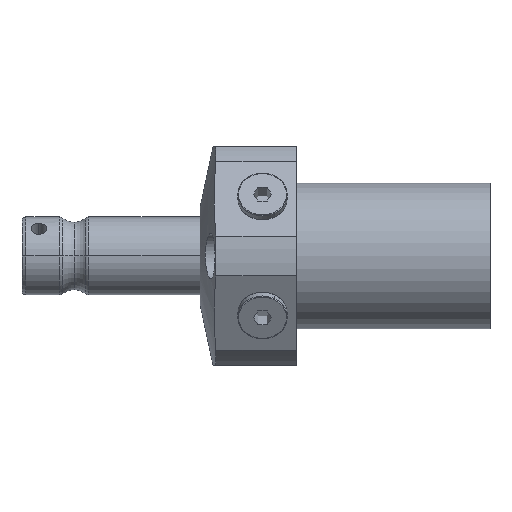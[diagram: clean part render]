
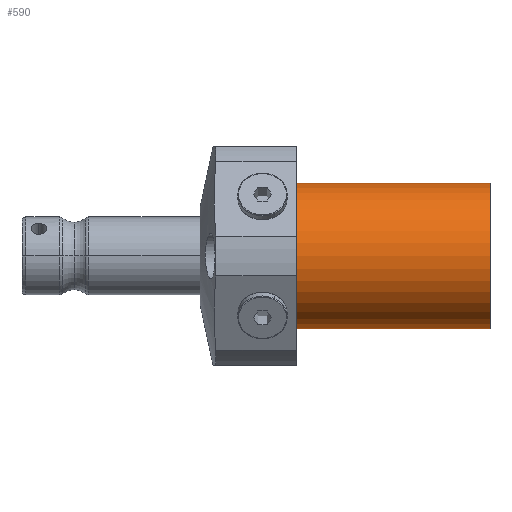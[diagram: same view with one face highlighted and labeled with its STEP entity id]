
A CAD part, left-side view. The second image highlights one B-rep face of the part: STEP entity #590.
In plain terms, the highlighted cylindrical face has radius 28 mm (diameter 56 mm), a partial arc.
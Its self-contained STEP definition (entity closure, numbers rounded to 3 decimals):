
#2 = LINE ( 'NONE', #1716, #852 ) ;
#301 = AXIS2_PLACEMENT_3D ( 'NONE', #1301, #3183, #2565 ) ;
#590 = ADVANCED_FACE ( 'NONE', ( #1028 ), #930, .T. ) ;
#852 = VECTOR ( 'NONE', #2030, 1000. ) ;
#907 = DIRECTION ( 'NONE',  ( 0., -1., 0. ) ) ;
#908 = CARTESIAN_POINT ( 'NONE',  ( 0., 0., 0. ) ) ;
#930 = CYLINDRICAL_SURFACE ( 'NONE', #301, 28. ) ;
#941 = ORIENTED_EDGE ( 'NONE', *, *, #3831, .F. ) ;
#977 = CARTESIAN_POINT ( 'NONE',  ( 0., 0., 28. ) ) ;
#984 = EDGE_CURVE ( 'NONE', #2589, #1558, #2366, .T. ) ;
#1028 = FACE_OUTER_BOUND ( 'NONE', #2873, .T. ) ;
#1194 = ORIENTED_EDGE ( 'NONE', *, *, #984, .F. ) ;
#1221 = DIRECTION ( 'NONE',  ( 0., 0., -1. ) ) ;
#1301 = CARTESIAN_POINT ( 'NONE',  ( 0., 0., 0. ) ) ;
#1524 = VERTEX_POINT ( 'NONE', #1752 ) ;
#1558 = VERTEX_POINT ( 'NONE', #2124 ) ;
#1716 = CARTESIAN_POINT ( 'NONE',  ( 0., 0., 28. ) ) ;
#1752 = CARTESIAN_POINT ( 'NONE',  ( 0., 74.5, 28. ) ) ;
#1797 = EDGE_CURVE ( 'NONE', #3162, #1558, #1819, .T. ) ;
#1819 = LINE ( 'NONE', #2785, #3392 ) ;
#1894 = DIRECTION ( 'NONE',  ( 0., -1., 0. ) ) ;
#2030 = DIRECTION ( 'NONE',  ( 0., -1., 0. ) ) ;
#2124 = CARTESIAN_POINT ( 'NONE',  ( 0., 0., -28. ) ) ;
#2349 = DIRECTION ( 'NONE',  ( 0., 0., -1. ) ) ;
#2366 = CIRCLE ( 'NONE', #3393, 28. ) ;
#2565 = DIRECTION ( 'NONE',  ( 0., 0., -1. ) ) ;
#2589 = VERTEX_POINT ( 'NONE', #977 ) ;
#2785 = CARTESIAN_POINT ( 'NONE',  ( 0., 0., -28. ) ) ;
#2873 = EDGE_LOOP ( 'NONE', ( #941, #3928, #3658, #1194 ) ) ;
#3096 = DIRECTION ( 'NONE',  ( 0., -1., 0. ) ) ;
#3162 = VERTEX_POINT ( 'NONE', #3340 ) ;
#3183 = DIRECTION ( 'NONE',  ( 0., -1., 0. ) ) ;
#3214 = CIRCLE ( 'NONE', #3531, 28. ) ;
#3340 = CARTESIAN_POINT ( 'NONE',  ( 0., 74.5, -28. ) ) ;
#3392 = VECTOR ( 'NONE', #907, 1000. ) ;
#3393 = AXIS2_PLACEMENT_3D ( 'NONE', #908, #3096, #1221 ) ;
#3511 = EDGE_CURVE ( 'NONE', #1524, #3162, #3214, .T. ) ;
#3531 = AXIS2_PLACEMENT_3D ( 'NONE', #3763, #1894, #2349 ) ;
#3658 = ORIENTED_EDGE ( 'NONE', *, *, #1797, .T. ) ;
#3763 = CARTESIAN_POINT ( 'NONE',  ( 0., 74.5, 0. ) ) ;
#3831 = EDGE_CURVE ( 'NONE', #1524, #2589, #2, .T. ) ;
#3928 = ORIENTED_EDGE ( 'NONE', *, *, #3511, .T. ) ;
